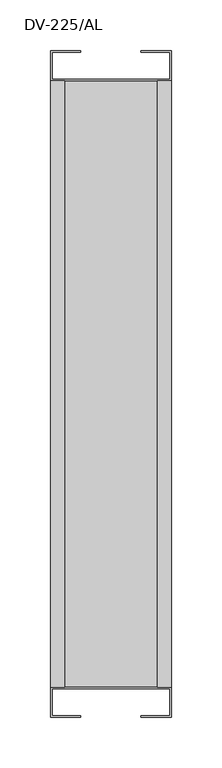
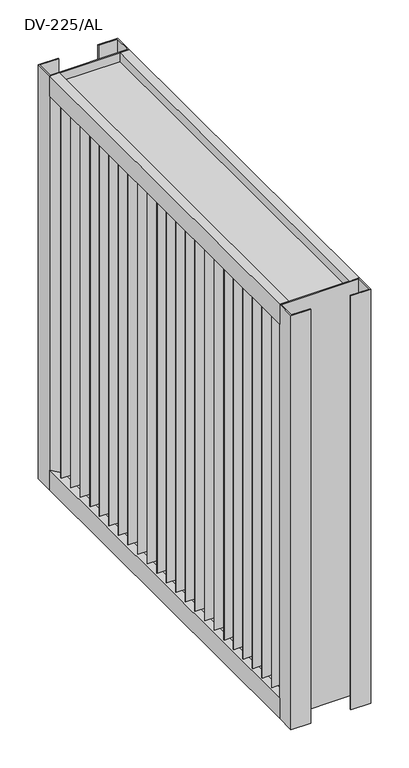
"""IFC4 building model written with IfcOpenShell, lengths in millimetres: damper geometry, DUA_UN_Drip tray DV_SMA : DV-225/AL."""

from ifc_helpers import new_model, si_unit, frame, origin, place, context, project, spatial, polyline, outline, extrude, source, transform, mapped, element, save


def dv_225_al_61a347db(model_context):
    return source(origin(), model_context, "Body", "SweptSolid", [
        extrude(outline(polyline([(19.4840178, 243.0114855), (-27.2769147, 266.837237), (-28.9292042, 266.7504315), (-29.5398267, 265.552108), (-28.0695577, 263.8739125), (-26.2366042, 260.633217), (-28.5045352, 257.6800645), (-40.7846727, 253.460026), (-55.0, 253.460026), (-55.0, 254.460053), (-40.7846727, 254.460053), (-29.1142082, 258.527911), (-27.4328932, 260.717174), (-28.7918072, 263.119789), (-30.6929842, 265.491751), (-29.5580017, 267.7189915), (-27.0617997, 267.8500135), (20.3774368, 243.6786), (21.1006353, 239.7783855), (18.9310388, 237.369328), (18.4112908, 234.923785), (20.2692008, 233.250879), (22.6468593, 234.023652), (41.0482808, 254.460053), (55.0, 254.460053), (55.0, 253.460026), (41.4935663, 253.460026), (23.2106888, 233.1555965), (20.0291293, 232.1213215), (17.3130648, 234.567068), (18.0084588, 237.8393665), (20.0273663, 240.08112), (19.4840178, 243.0114855)])), frame((0.0, 0.0, -300.0), z_axis=(0.0, 0.0, 1.0), x_axis=(1.0, 0.0, 0.0)), (0.0, 0.0, 1.0), 600.0),
        extrude(outline(polyline([(19.4840178, 218.0114855), (-27.2769147, 241.837237), (-28.9292042, 241.7504315), (-29.5398267, 240.552108), (-28.0695577, 238.8739125), (-26.2366042, 235.633217), (-28.5045352, 232.6800645), (-40.7846727, 228.460026), (-55.0, 228.460026), (-55.0, 229.460053), (-40.7846727, 229.460053), (-29.1142082, 233.527911), (-27.4328932, 235.717174), (-28.7918072, 238.119789), (-30.6929842, 240.491751), (-29.5580017, 242.7189915), (-27.0617997, 242.8500135), (20.3774368, 218.6786), (21.1006353, 214.7783855), (18.9310388, 212.369328), (18.4112908, 209.923785), (20.2692008, 208.250879), (22.6468593, 209.023652), (41.0482808, 229.460053), (55.0, 229.460053), (55.0, 228.460026), (41.4935663, 228.460026), (23.2106888, 208.1555965), (20.0291293, 207.1213215), (17.3130648, 209.567068), (18.0084588, 212.8393665), (20.0273663, 215.08112), (19.4840178, 218.0114855)])), frame((0.0, 0.0, -300.0), z_axis=(0.0, 0.0, 1.0), x_axis=(1.0, 0.0, 0.0)), (0.0, 0.0, 1.0), 600.0),
        extrude(outline(polyline([(19.4840178, 193.0114855), (-27.2769147, 216.837237), (-28.9292042, 216.7504315), (-29.5398267, 215.552108), (-28.0695577, 213.8739125), (-26.2366042, 210.633217), (-28.5045352, 207.6800645), (-40.7846727, 203.460026), (-55.0, 203.460026), (-55.0, 204.460053), (-40.7846727, 204.460053), (-29.1142082, 208.527911), (-27.4328932, 210.717174), (-28.7918072, 213.119789), (-30.6929842, 215.491751), (-29.5580017, 217.7189915), (-27.0617997, 217.8500135), (20.3774368, 193.6786), (21.1006353, 189.7783855), (18.9310388, 187.369328), (18.4112908, 184.923785), (20.2692008, 183.250879), (22.6468593, 184.023652), (41.0482808, 204.460053), (55.0, 204.460053), (55.0, 203.460026), (41.4935663, 203.460026), (23.2106888, 183.1555965), (20.0291293, 182.1213215), (17.3130648, 184.567068), (18.0084588, 187.8393665), (20.0273663, 190.08112), (19.4840178, 193.0114855)])), frame((0.0, 0.0, -300.0), z_axis=(0.0, 0.0, 1.0), x_axis=(1.0, 0.0, 0.0)), (0.0, 0.0, 1.0), 600.0),
        extrude(outline(polyline([(19.4840178, 168.0114855), (-27.2769147, 191.837237), (-28.9292042, 191.7504315), (-29.5398267, 190.552108), (-28.0695577, 188.8739125), (-26.2366042, 185.633217), (-28.5045352, 182.6800645), (-40.7846727, 178.460026), (-55.0, 178.460026), (-55.0, 179.460053), (-40.7846727, 179.460053), (-29.1142082, 183.527911), (-27.4328932, 185.717174), (-28.7918072, 188.119789), (-30.6929842, 190.491751), (-29.5580017, 192.7189915), (-27.0617997, 192.8500135), (20.3774368, 168.6786), (21.1006353, 164.7783855), (18.9310388, 162.369328), (18.4112908, 159.923785), (20.2692008, 158.250879), (22.6468593, 159.023652), (41.0482808, 179.460053), (55.0, 179.460053), (55.0, 178.460026), (41.4935663, 178.460026), (23.2106888, 158.1555965), (20.0291293, 157.1213215), (17.3130648, 159.567068), (18.0084588, 162.8393665), (20.0273663, 165.08112), (19.4840178, 168.0114855)])), frame((0.0, 0.0, -300.0), z_axis=(0.0, 0.0, 1.0), x_axis=(1.0, 0.0, 0.0)), (0.0, 0.0, 1.0), 600.0),
        extrude(outline(polyline([(19.4840178, 143.0114855), (-27.2769147, 166.837237), (-28.9292042, 166.7504315), (-29.5398267, 165.552108), (-28.0695577, 163.8739125), (-26.2366042, 160.633217), (-28.5045352, 157.6800645), (-40.7846727, 153.460026), (-55.0, 153.460026), (-55.0, 154.460053), (-40.7846727, 154.460053), (-29.1142082, 158.527911), (-27.4328932, 160.717174), (-28.7918072, 163.119789), (-30.6929842, 165.491751), (-29.5580017, 167.7189915), (-27.0617997, 167.8500135), (20.3774368, 143.6786), (21.1006353, 139.7783855), (18.9310388, 137.369328), (18.4112908, 134.923785), (20.2692008, 133.250879), (22.6468593, 134.023652), (41.0482808, 154.460053), (55.0, 154.460053), (55.0, 153.460026), (41.4935663, 153.460026), (23.2106888, 133.1555965), (20.0291293, 132.1213215), (17.3130648, 134.567068), (18.0084588, 137.8393665), (20.0273663, 140.08112), (19.4840178, 143.0114855)])), frame((0.0, 0.0, -300.0), z_axis=(0.0, 0.0, 1.0), x_axis=(1.0, 0.0, 0.0)), (0.0, 0.0, 1.0), 600.0),
        extrude(outline(polyline([(19.4840178, 118.0114855), (-27.2769147, 141.837237), (-28.9292042, 141.7504315), (-29.5398267, 140.552108), (-28.0695577, 138.8739125), (-26.2366042, 135.633217), (-28.5045352, 132.6800645), (-40.7846727, 128.460026), (-55.0, 128.460026), (-55.0, 129.460053), (-40.7846727, 129.460053), (-29.1142082, 133.527911), (-27.4328932, 135.717174), (-28.7918072, 138.119789), (-30.6929842, 140.491751), (-29.5580017, 142.7189915), (-27.0617997, 142.8500135), (20.3774368, 118.6786), (21.1006353, 114.7783855), (18.9310388, 112.369328), (18.4112908, 109.923785), (20.2692008, 108.250879), (22.6468593, 109.023652), (41.0482808, 129.460053), (55.0, 129.460053), (55.0, 128.460026), (41.4935663, 128.460026), (23.2106888, 108.1555965), (20.0291293, 107.1213215), (17.3130648, 109.567068), (18.0084588, 112.8393665), (20.0273663, 115.08112), (19.4840178, 118.0114855)])), frame((0.0, 0.0, -300.0), z_axis=(0.0, 0.0, 1.0), x_axis=(1.0, 0.0, 0.0)), (0.0, 0.0, 1.0), 600.0),
        extrude(outline(polyline([(19.4840178, 93.0114855), (-27.2769147, 116.837237), (-28.9292042, 116.7504315), (-29.5398267, 115.552108), (-28.0695577, 113.8739125), (-26.2366042, 110.633217), (-28.5045352, 107.6800645), (-40.7846727, 103.460026), (-55.0, 103.460026), (-55.0, 104.460053), (-40.7846727, 104.460053), (-29.1142082, 108.527911), (-27.4328932, 110.717174), (-28.7918072, 113.119789), (-30.6929842, 115.491751), (-29.5580017, 117.7189915), (-27.0617997, 117.8500135), (20.3774368, 93.6786), (21.1006353, 89.7783855), (18.9310388, 87.369328), (18.4112908, 84.923785), (20.2692008, 83.250879), (22.6468593, 84.023652), (41.0482808, 104.460053), (55.0, 104.460053), (55.0, 103.460026), (41.4935663, 103.460026), (23.2106888, 83.1555965), (20.0291293, 82.1213215), (17.3130648, 84.567068), (18.0084588, 87.8393665), (20.0273663, 90.08112), (19.4840178, 93.0114855)])), frame((0.0, 0.0, -300.0), z_axis=(0.0, 0.0, 1.0), x_axis=(1.0, 0.0, 0.0)), (0.0, 0.0, 1.0), 600.0),
        extrude(outline(polyline([(19.4840178, 68.0114855), (-27.2769147, 91.837237), (-28.9292042, 91.7504315), (-29.5398267, 90.552108), (-28.0695577, 88.8739125), (-26.2366042, 85.633217), (-28.5045352, 82.6800645), (-40.7846727, 78.460026), (-55.0, 78.460026), (-55.0, 79.460053), (-40.7846727, 79.460053), (-29.1142082, 83.527911), (-27.4328932, 85.717174), (-28.7918072, 88.119789), (-30.6929842, 90.491751), (-29.5580017, 92.7189915), (-27.0617997, 92.8500135), (20.3774368, 68.6786), (21.1006353, 64.7783855), (18.9310388, 62.369328), (18.4112908, 59.923785), (20.2692008, 58.250879), (22.6468593, 59.023652), (41.0482808, 79.460053), (55.0, 79.460053), (55.0, 78.460026), (41.4935663, 78.460026), (23.2106888, 58.1555965), (20.0291293, 57.1213215), (17.3130648, 59.567068), (18.0084588, 62.8393665), (20.0273663, 65.08112), (19.4840178, 68.0114855)])), frame((0.0, 0.0, -300.0), z_axis=(0.0, 0.0, 1.0), x_axis=(1.0, 0.0, 0.0)), (0.0, 0.0, 1.0), 600.0),
        extrude(outline(polyline([(19.4840178, 43.0114855), (-27.2769147, 66.837237), (-28.9292042, 66.7504315), (-29.5398267, 65.552108), (-28.0695577, 63.8739125), (-26.2366042, 60.633217), (-28.5045352, 57.6800645), (-40.7846727, 53.460026), (-55.0, 53.460026), (-55.0, 54.460053), (-40.7846727, 54.460053), (-29.1142082, 58.527911), (-27.4328932, 60.717174), (-28.7918072, 63.119789), (-30.6929842, 65.491751), (-29.5580017, 67.7189915), (-27.0617997, 67.8500135), (20.3774368, 43.6786), (21.1006353, 39.7783855), (18.9310388, 37.369328), (18.4112908, 34.923785), (20.2692008, 33.250879), (22.6468593, 34.023652), (41.0482808, 54.460053), (55.0, 54.460053), (55.0, 53.460026), (41.4935663, 53.460026), (23.2106888, 33.1555965), (20.0291293, 32.1213215), (17.3130648, 34.567068), (18.0084588, 37.8393665), (20.0273663, 40.08112), (19.4840178, 43.0114855)])), frame((0.0, 0.0, -300.0), z_axis=(0.0, 0.0, 1.0), x_axis=(1.0, 0.0, 0.0)), (0.0, 0.0, 1.0), 600.0),
        extrude(outline(polyline([(19.4840178, 18.0114855), (-27.2769147, 41.837237), (-28.9292042, 41.7504315), (-29.5398267, 40.552108), (-28.0695577, 38.8739125), (-26.2366042, 35.633217), (-28.5045352, 32.6800645), (-40.7846727, 28.460026), (-55.0, 28.460026), (-55.0, 29.460053), (-40.7846727, 29.460053), (-29.1142082, 33.527911), (-27.4328932, 35.717174), (-28.7918072, 38.119789), (-30.6929842, 40.491751), (-29.5580017, 42.7189915), (-27.0617997, 42.8500135), (20.3774368, 18.6786), (21.1006353, 14.7783855), (18.9310388, 12.369328), (18.4112908, 9.923785), (20.2692008, 8.250879), (22.6468593, 9.023652), (41.0482808, 29.460053), (55.0, 29.460053), (55.0, 28.460026), (41.4935663, 28.460026), (23.2106888, 8.1555965), (20.0291293, 7.1213215), (17.3130648, 9.567068), (18.0084588, 12.8393665), (20.0273663, 15.08112), (19.4840178, 18.0114855)])), frame((0.0, 0.0, -300.0), z_axis=(0.0, 0.0, 1.0), x_axis=(1.0, 0.0, 0.0)), (0.0, 0.0, 1.0), 600.0),
        extrude(outline(polyline([(19.4840178, -6.9885145), (-27.2769147, 16.837237), (-28.9292042, 16.7504315), (-29.5398267, 15.552108), (-28.0695577, 13.8739125), (-26.2366042, 10.633217), (-28.5045352, 7.6800645), (-40.7846727, 3.460026), (-55.0, 3.460026), (-55.0, 4.460053), (-40.7846727, 4.460053), (-29.1142082, 8.527911), (-27.4328932, 10.717174), (-28.7918072, 13.119789), (-30.6929842, 15.491751), (-29.5580017, 17.7189915), (-27.0617997, 17.8500135), (20.3774368, -6.3214), (21.1006353, -10.2216145), (18.9310388, -12.630672), (18.4112908, -15.076215), (20.2692008, -16.749121), (22.6468593, -15.976348), (41.0482808, 4.460053), (55.0, 4.460053), (55.0, 3.460026), (41.4935663, 3.460026), (23.2106888, -16.8444035), (20.0291293, -17.8786785), (17.3130648, -15.432932), (18.0084588, -12.1606335), (20.0273663, -9.91888), (19.4840178, -6.9885145)])), frame((0.0, 0.0, -300.0), z_axis=(0.0, 0.0, 1.0), x_axis=(1.0, 0.0, 0.0)), (0.0, 0.0, 1.0), 600.0),
        extrude(outline(polyline([(19.4840178, -31.9885145), (-27.2769147, -8.162763), (-28.9292042, -8.2495685), (-29.5398267, -9.447892), (-28.0695577, -11.1260875), (-26.2366042, -14.366783), (-28.5045352, -17.3199355), (-40.7846727, -21.539974), (-55.0, -21.539974), (-55.0, -20.539947), (-40.7846727, -20.539947), (-29.1142082, -16.472089), (-27.4328932, -14.282826), (-28.7918072, -11.880211), (-30.6929842, -9.508249), (-29.5580017, -7.2810085), (-27.0617997, -7.1499865), (20.3774368, -31.3214), (21.1006353, -35.2216145), (18.9310388, -37.630672), (18.4112908, -40.076215), (20.2692008, -41.749121), (22.6468593, -40.976348), (41.0482808, -20.539947), (55.0, -20.539947), (55.0, -21.539974), (41.4935663, -21.539974), (23.2106888, -41.8444035), (20.0291293, -42.8786785), (17.3130648, -40.432932), (18.0084588, -37.1606335), (20.0273663, -34.91888), (19.4840178, -31.9885145)])), frame((0.0, 0.0, -300.0), z_axis=(0.0, 0.0, 1.0), x_axis=(1.0, 0.0, 0.0)), (0.0, 0.0, 1.0), 600.0),
        extrude(outline(polyline([(19.4840178, -56.9885145), (-27.2769147, -33.162763), (-28.9292042, -33.2495685), (-29.5398267, -34.447892), (-28.0695577, -36.1260875), (-26.2366042, -39.366783), (-28.5045352, -42.3199355), (-40.7846727, -46.539974), (-55.0, -46.539974), (-55.0, -45.539947), (-40.7846727, -45.539947), (-29.1142082, -41.472089), (-27.4328932, -39.282826), (-28.7918072, -36.880211), (-30.6929842, -34.508249), (-29.5580017, -32.2810085), (-27.0617997, -32.1499865), (20.3774368, -56.3214), (21.1006353, -60.2216145), (18.9310388, -62.630672), (18.4112908, -65.076215), (20.2692008, -66.749121), (22.6468593, -65.976348), (41.0482808, -45.539947), (55.0, -45.539947), (55.0, -46.539974), (41.4935663, -46.539974), (23.2106888, -66.8444035), (20.0291293, -67.8786785), (17.3130648, -65.432932), (18.0084588, -62.1606335), (20.0273663, -59.91888), (19.4840178, -56.9885145)])), frame((0.0, 0.0, -300.0), z_axis=(0.0, 0.0, 1.0), x_axis=(1.0, 0.0, 0.0)), (0.0, 0.0, 1.0), 600.0),
        extrude(outline(polyline([(19.4840178, -81.9885145), (-27.2769147, -58.162763), (-28.9292042, -58.2495685), (-29.5398267, -59.447892), (-28.0695577, -61.1260875), (-26.2366042, -64.366783), (-28.5045352, -67.3199355), (-40.7846727, -71.539974), (-55.0, -71.539974), (-55.0, -70.539947), (-40.7846727, -70.539947), (-29.1142082, -66.472089), (-27.4328932, -64.282826), (-28.7918072, -61.880211), (-30.6929842, -59.508249), (-29.5580017, -57.2810085), (-27.0617997, -57.1499865), (20.3774368, -81.3214), (21.1006353, -85.2216145), (18.9310388, -87.630672), (18.4112908, -90.076215), (20.2692008, -91.749121), (22.6468593, -90.976348), (41.0482808, -70.539947), (55.0, -70.539947), (55.0, -71.539974), (41.4935663, -71.539974), (23.2106888, -91.8444035), (20.0291293, -92.8786785), (17.3130648, -90.432932), (18.0084588, -87.1606335), (20.0273663, -84.91888), (19.4840178, -81.9885145)])), frame((0.0, 0.0, -300.0), z_axis=(0.0, 0.0, 1.0), x_axis=(1.0, 0.0, 0.0)), (0.0, 0.0, 1.0), 600.0),
        extrude(outline(polyline([(19.4840178, -106.9885145), (-27.2769147, -83.162763), (-28.9292042, -83.2495685), (-29.5398267, -84.447892), (-28.0695577, -86.1260875), (-26.2366042, -89.366783), (-28.5045352, -92.3199355), (-40.7846727, -96.539974), (-55.0, -96.539974), (-55.0, -95.539947), (-40.7846727, -95.539947), (-29.1142082, -91.472089), (-27.4328932, -89.282826), (-28.7918072, -86.880211), (-30.6929842, -84.508249), (-29.5580017, -82.2810085), (-27.0617997, -82.1499865), (20.3774368, -106.3214), (21.1006353, -110.2216145), (18.9310388, -112.630672), (18.4112908, -115.076215), (20.2692008, -116.749121), (22.6468593, -115.976348), (41.0482808, -95.539947), (55.0, -95.539947), (55.0, -96.539974), (41.4935663, -96.539974), (23.2106888, -116.8444035), (20.0291293, -117.8786785), (17.3130648, -115.432932), (18.0084588, -112.1606335), (20.0273663, -109.91888), (19.4840178, -106.9885145)])), frame((0.0, 0.0, -300.0), z_axis=(0.0, 0.0, 1.0), x_axis=(1.0, 0.0, 0.0)), (0.0, 0.0, 1.0), 600.0),
        extrude(outline(polyline([(19.4840178, -131.9885145), (-27.2769147, -108.162763), (-28.9292042, -108.2495685), (-29.5398267, -109.447892), (-28.0695577, -111.1260875), (-26.2366042, -114.366783), (-28.5045352, -117.3199355), (-40.7846727, -121.539974), (-55.0, -121.539974), (-55.0, -120.539947), (-40.7846727, -120.539947), (-29.1142082, -116.472089), (-27.4328932, -114.282826), (-28.7918072, -111.880211), (-30.6929842, -109.508249), (-29.5580017, -107.2810085), (-27.0617997, -107.1499865), (20.3774368, -131.3214), (21.1006353, -135.2216145), (18.9310388, -137.630672), (18.4112908, -140.076215), (20.2692008, -141.749121), (22.6468593, -140.976348), (41.0482808, -120.539947), (55.0, -120.539947), (55.0, -121.539974), (41.4935663, -121.539974), (23.2106888, -141.8444035), (20.0291293, -142.8786785), (17.3130648, -140.432932), (18.0084588, -137.1606335), (20.0273663, -134.91888), (19.4840178, -131.9885145)])), frame((0.0, 0.0, -300.0), z_axis=(0.0, 0.0, 1.0), x_axis=(1.0, 0.0, 0.0)), (0.0, 0.0, 1.0), 600.0),
        extrude(outline(polyline([(19.4840178, -156.9885145), (-27.2769147, -133.162763), (-28.9292042, -133.2495685), (-29.5398267, -134.447892), (-28.0695577, -136.1260875), (-26.2366042, -139.366783), (-28.5045352, -142.3199355), (-40.7846727, -146.539974), (-55.0, -146.539974), (-55.0, -145.539947), (-40.7846727, -145.539947), (-29.1142082, -141.472089), (-27.4328932, -139.282826), (-28.7918072, -136.880211), (-30.6929842, -134.508249), (-29.5580017, -132.2810085), (-27.0617997, -132.1499865), (20.3774368, -156.3214), (21.1006353, -160.2216145), (18.9310388, -162.630672), (18.4112908, -165.076215), (20.2692008, -166.749121), (22.6468593, -165.976348), (41.0482808, -145.539947), (55.0, -145.539947), (55.0, -146.539974), (41.4935663, -146.539974), (23.2106888, -166.8444035), (20.0291293, -167.8786785), (17.3130648, -165.432932), (18.0084588, -162.1606335), (20.0273663, -159.91888), (19.4840178, -156.9885145)])), frame((0.0, 0.0, -300.0), z_axis=(0.0, 0.0, 1.0), x_axis=(1.0, 0.0, 0.0)), (0.0, 0.0, 1.0), 600.0),
        extrude(outline(polyline([(19.4840178, -181.9885145), (-27.2769147, -158.162763), (-28.9292042, -158.2495685), (-29.5398267, -159.447892), (-28.0695577, -161.1260875), (-26.2366042, -164.366783), (-28.5045352, -167.3199355), (-40.7846727, -171.539974), (-55.0, -171.539974), (-55.0, -170.539947), (-40.7846727, -170.539947), (-29.1142082, -166.472089), (-27.4328932, -164.282826), (-28.7918072, -161.880211), (-30.6929842, -159.508249), (-29.5580017, -157.2810085), (-27.0617997, -157.1499865), (20.3774368, -181.3214), (21.1006353, -185.2216145), (18.9310388, -187.630672), (18.4112908, -190.076215), (20.2692008, -191.749121), (22.6468593, -190.976348), (41.0482808, -170.539947), (55.0, -170.539947), (55.0, -171.539974), (41.4935663, -171.539974), (23.2106888, -191.8444035), (20.0291293, -192.8786785), (17.3130648, -190.432932), (18.0084588, -187.1606335), (20.0273663, -184.91888), (19.4840178, -181.9885145)])), frame((0.0, 0.0, -300.0), z_axis=(0.0, 0.0, 1.0), x_axis=(1.0, 0.0, 0.0)), (0.0, 0.0, 1.0), 600.0),
        extrude(outline(polyline([(19.4840178, -206.9885145), (-27.2769147, -183.162763), (-28.9292042, -183.2495685), (-29.5398267, -184.447892), (-28.0695577, -186.1260875), (-26.2366042, -189.366783), (-28.5045352, -192.3199355), (-40.7846727, -196.539974), (-55.0, -196.539974), (-55.0, -195.539947), (-40.7846727, -195.539947), (-29.1142082, -191.472089), (-27.4328932, -189.282826), (-28.7918072, -186.880211), (-30.6929842, -184.508249), (-29.5580017, -182.2810085), (-27.0617997, -182.1499865), (20.3774368, -206.3214), (21.1006353, -210.2216145), (18.9310388, -212.630672), (18.4112908, -215.076215), (20.2692008, -216.749121), (22.6468593, -215.976348), (41.0482808, -195.539947), (55.0, -195.539947), (55.0, -196.539974), (41.4935663, -196.539974), (23.2106888, -216.8444035), (20.0291293, -217.8786785), (17.3130648, -215.432932), (18.0084588, -212.1606335), (20.0273663, -209.91888), (19.4840178, -206.9885145)])), frame((0.0, 0.0, -300.0), z_axis=(0.0, 0.0, 1.0), x_axis=(1.0, 0.0, 0.0)), (0.0, 0.0, 1.0), 600.0),
        extrude(outline(polyline([(19.4840178, -231.9885145), (-27.2769147, -208.162763), (-28.9292042, -208.2495685), (-29.5398267, -209.447892), (-28.0695577, -211.1260875), (-26.2366042, -214.366783), (-28.5045352, -217.3199355), (-40.7846727, -221.539974), (-55.0, -221.539974), (-55.0, -220.539947), (-40.7846727, -220.539947), (-29.1142082, -216.472089), (-27.4328932, -214.282826), (-28.7918072, -211.880211), (-30.6929842, -209.508249), (-29.5580017, -207.2810085), (-27.0617997, -207.1499865), (20.3774368, -231.3214), (21.1006353, -235.2216145), (18.9310388, -237.630672), (18.4112908, -240.076215), (20.2692008, -241.749121), (22.6468593, -240.976348), (41.0482808, -220.539947), (55.0, -220.539947), (55.0, -221.539974), (41.4935663, -221.539974), (23.2106888, -241.8444035), (20.0291293, -242.8786785), (17.3130648, -240.432932), (18.0084588, -237.1606335), (20.0273663, -234.91888), (19.4840178, -231.9885145)])), frame((0.0, 0.0, -300.0), z_axis=(0.0, 0.0, 1.0), x_axis=(1.0, 0.0, 0.0)), (0.0, 0.0, 1.0), 600.0),
        extrude(outline(polyline([(19.4840178, -256.9885145), (-27.2769147, -233.162763), (-28.9292042, -233.2495685), (-29.5398267, -234.447892), (-28.0695577, -236.1260875), (-26.2366042, -239.366783), (-28.5045352, -242.3199355), (-40.7846727, -246.539974), (-55.0, -246.539974), (-55.0, -245.539947), (-40.7846727, -245.539947), (-29.1142082, -241.472089), (-27.4328932, -239.282826), (-28.7918072, -236.880211), (-30.6929842, -234.508249), (-29.5580017, -232.2810085), (-27.0617997, -232.1499865), (20.3774368, -256.3214), (21.1006353, -260.2216145), (18.9310388, -262.630672), (18.4112908, -265.076215), (20.2692008, -266.749121), (22.6468593, -265.976348), (41.0482808, -245.539947), (55.0, -245.539947), (55.0, -246.539974), (41.4935663, -246.539974), (23.2106888, -266.8444035), (20.0291293, -267.8786785), (17.3130648, -265.432932), (18.0084588, -262.1606335), (20.0273663, -259.91888), (19.4840178, -256.9885145)])), frame((0.0, 0.0, -300.0), z_axis=(0.0, 0.0, 1.0), x_axis=(1.0, 0.0, 0.0)), (0.0, 0.0, 1.0), 600.0),
        extrude(outline(polyline([(19.4840178, 268.0114855), (-27.2769147, 291.837237), (-28.9292042, 291.7504315), (-29.5398267, 290.552108), (-28.0695577, 288.8739125), (-26.2366042, 285.633217), (-28.5045352, 282.6800645), (-40.7846727, 278.460026), (-55.0, 278.460026), (-55.0, 279.460053), (-40.7846727, 279.460053), (-29.1142082, 283.527911), (-27.4328932, 285.717174), (-28.7918072, 288.119789), (-30.6929842, 290.491751), (-29.5580017, 292.7189915), (-27.0617997, 292.8500135), (20.3774368, 268.6786), (21.1006353, 264.7783855), (18.9310388, 262.369328), (18.4112908, 259.923785), (20.2692008, 258.250879), (22.6468593, 259.023652), (41.0482808, 279.460053), (55.0, 279.460053), (55.0, 278.460026), (41.4935663, 278.460026), (23.2106888, 258.1555965), (20.0291293, 257.1213215), (17.3130648, 259.567068), (18.0084588, 262.8393665), (20.0273663, 265.08112), (19.4840178, 268.0114855)])), frame((0.0, 0.0, -300.0), z_axis=(0.0, 0.0, 1.0), x_axis=(1.0, 0.0, 0.0)), (0.0, 0.0, 1.0), 600.0),
        extrude(outline(polyline([(19.4840178, -281.9885145), (-27.2769147, -258.162763), (-28.9292042, -258.2495685), (-29.5398267, -259.447892), (-28.0695577, -261.1260875), (-26.2366042, -264.366783), (-28.5045352, -267.3199355), (-40.7846727, -271.539974), (-55.0, -271.539974), (-55.0, -270.539947), (-40.7846727, -270.539947), (-29.1142082, -266.472089), (-27.4328932, -264.282826), (-28.7918072, -261.880211), (-30.6929842, -259.508249), (-29.5580017, -257.2810085), (-27.0617997, -257.1499865), (20.3774368, -281.3214), (21.1006353, -285.2216145), (18.9310388, -287.630672), (18.4112908, -290.076215), (20.2692008, -291.749121), (22.6468593, -290.976348), (41.0482808, -270.539947), (55.0, -270.539947), (55.0, -271.539974), (41.4935663, -271.539974), (23.2106888, -291.8444035), (20.0291293, -292.8786785), (17.3130648, -290.432932), (18.0084588, -287.1606335), (20.0273663, -284.91888), (19.4840178, -281.9885145)])), frame((0.0, 0.0, -300.0), z_axis=(0.0, 0.0, 1.0), x_axis=(1.0, 0.0, 0.0)), (0.0, 0.0, 1.0), 600.0),
        extrude(outline(polyline([(330.0, -46.0), (330.0, -60.0), (298.081794, -60.0), (310.1735233, -39.0565104), (311.0395487, -39.5565104), (299.8138448, -59.0), (315.0, -59.0), (315.0, 59.0), (299.6890645, 59.0), (310.9459635, 39.502479), (310.102677, 39.0156073), (297.9873323, 60.0), (330.0, 60.0), (330.0, 46.0), (316.0, 46.0), (316.0, -46.0), (330.0, -46.0)])), frame((0.0, -300.0, 0.0), z_axis=(0.0, 1.0, 0.0), x_axis=(0.0, 0.0, 1.0)), (0.0, 0.0, 1.0), 600.0),
        extrude(outline(polyline([(-330.0, -46.0), (-316.0, -46.0), (-316.0, 46.0), (-330.0, 46.0), (-330.0, 60.0), (-297.9873323, 60.0), (-310.102677, 39.0156073), (-310.9459635, 39.502479), (-299.6890645, 59.0), (-315.0, 59.0), (-315.0, -59.0), (-299.8138448, -59.0), (-311.0395487, -39.5565104), (-310.1735233, -39.0565104), (-298.081794, -60.0), (-330.0, -60.0), (-330.0, -46.0)])), frame((0.0, -300.0, 0.0), z_axis=(0.0, 1.0, 0.0), x_axis=(0.0, 0.0, 1.0)), (0.0, 0.0, 1.0), 600.0),
        extrude(outline(polyline([(60.0, 300.0), (-60.0, 300.0), (-60.0, 330.0), (-30.0, 330.0), (-30.0, 328.5), (-58.5, 328.5), (-58.5, 301.5), (58.5, 301.5), (58.5, 328.5), (30.0, 328.5), (30.0, 330.0), (60.0, 330.0), (60.0, 300.0)])), frame((0.0, 0.0, -330.0), z_axis=(0.0, 0.0, 1.0), x_axis=(1.0, 0.0, 0.0)), (0.0, 0.0, 1.0), 660.0),
        extrude(outline(polyline([(60.0, -300.0), (60.0, -330.0), (30.0, -330.0), (30.0, -328.5), (58.5, -328.5), (58.5, -301.5), (-58.5, -301.5), (-58.5, -328.5), (-30.0, -328.5), (-30.0, -330.0), (-60.0, -330.0), (-60.0, -300.0), (60.0, -300.0)])), frame((0.0, 0.0, -330.0), z_axis=(0.0, 0.0, 1.0), x_axis=(1.0, 0.0, 0.0)), (0.0, 0.0, 1.0), 660.0),
    ])


if __name__ == "__main__":
    model = new_model("IFC4")
    model_context = context("Model", 3, world=origin())
    ifc_project = project(units=[si_unit("LENGTHUNIT", "METRE", prefix="MILLI")], contexts=[model_context])
    site = spatial("IfcSite", under=ifc_project)
    building = spatial("IfcBuilding", under=site)
    placement = place(None, origin())
    dv_225_al_shape = dv_225_al_61a347db(model_context)
    element("IfcDamper", 1, ObjectType="DUA_UN_Drip tray DV_SMA : DV-225/AL", at=placement, inside=building, context=model_context, shape_type="MappedRepresentation", body=[
        mapped(dv_225_al_shape, transform((0.0, 0.0, 0.0), x_axis=(1.0, 0.0, 0.0), y_axis=(0.0, 1.0, 0.0), z_axis=(0.0, 0.0, 1.0))),
    ])
    save(model, "model.ifc")
